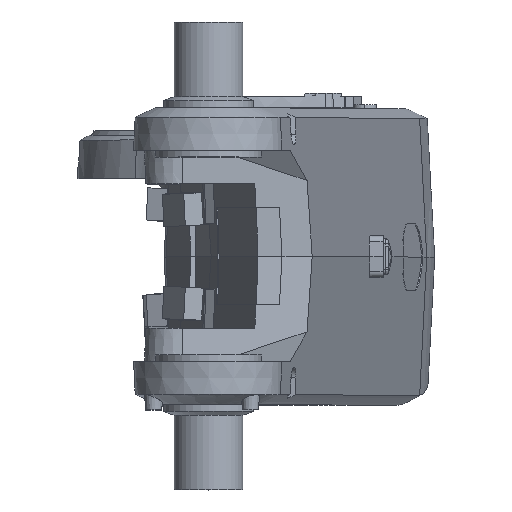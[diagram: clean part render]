
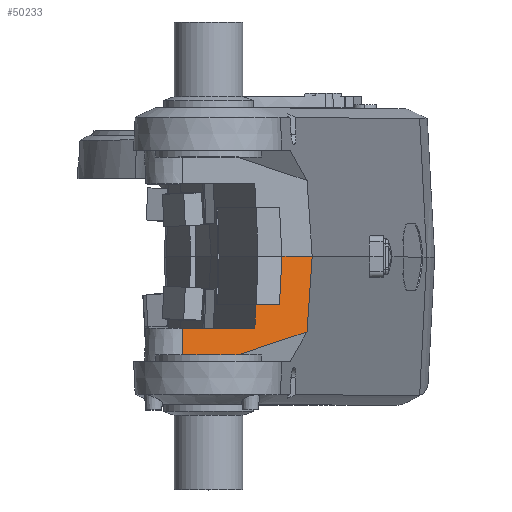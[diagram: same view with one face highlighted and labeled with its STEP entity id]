
A CAD part, top view. The second image highlights one B-rep face of the part: STEP entity #50233.
In plain terms, the highlighted planar face has unit normal (0.242, 0.052, 0.969).
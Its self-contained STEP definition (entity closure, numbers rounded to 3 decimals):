
#255 = DIRECTION ( 'NONE',  ( 0.068, 0.995, -0.071 ) ) ;
#1988 = ORIENTED_EDGE ( 'NONE', *, *, #5552, .F. ) ;
#2979 = EDGE_CURVE ( 'NONE', #41523, #30212, #33370, .T. ) ;
#3996 = VECTOR ( 'NONE', #20061, 1000. ) ;
#5552 = EDGE_CURVE ( 'NONE', #46377, #30212, #14368, .T. ) ;
#5652 = ORIENTED_EDGE ( 'NONE', *, *, #37255, .T. ) ;
#5805 = LINE ( 'NONE', #14203, #3996 ) ;
#5834 = CARTESIAN_POINT ( 'NONE',  ( 572.882, -117.351, 2426.608 ) ) ;
#6600 = VERTEX_POINT ( 'NONE', #16757 ) ;
#9781 = PLANE ( 'NONE',  #48844 ) ;
#9797 = DIRECTION ( 'NONE',  ( 0.919, 0.309, -0.246 ) ) ;
#10473 = VECTOR ( 'NONE', #56690, 1000. ) ;
#12211 = EDGE_CURVE ( 'NONE', #65435, #46377, #54359, .T. ) ;
#12564 = EDGE_CURVE ( 'NONE', #6600, #28185, #37550, .T. ) ;
#13820 = ORIENTED_EDGE ( 'NONE', *, *, #57099, .T. ) ;
#14203 = CARTESIAN_POINT ( 'NONE',  ( 660.03, -75., 2402.592 ) ) ;
#14368 = LINE ( 'NONE', #35436, #59963 ) ;
#15604 = DIRECTION ( 'NONE',  ( 0.97, 0., -0.242 ) ) ;
#15617 = CARTESIAN_POINT ( 'NONE',  ( 367.536, -186.446, 2481.539 ) ) ;
#15635 = ORIENTED_EDGE ( 'NONE', *, *, #72081, .T. ) ;
#16218 = DIRECTION ( 'NONE',  ( 0.97, 0., -0.242 ) ) ;
#16240 = DIRECTION ( 'NONE',  ( -0.031, -0.998, 0.062 ) ) ;
#16377 = CARTESIAN_POINT ( 'NONE',  ( 495.655, 7.514, 2439.119 ) ) ;
#16757 = CARTESIAN_POINT ( 'NONE',  ( 534., 0., 2429.964 ) ) ;
#16769 = CARTESIAN_POINT ( 'NONE',  ( 534.45, 8.585, 2429.388 ) ) ;
#18788 = LINE ( 'NONE', #15617, #49087 ) ;
#19919 = VECTOR ( 'NONE', #16240, 1000. ) ;
#20061 = DIRECTION ( 'NONE',  ( -0.97, 0., 0.242 ) ) ;
#25786 = FACE_OUTER_BOUND ( 'NONE', #57624, .T. ) ;
#25933 = VECTOR ( 'NONE', #255, 1000. ) ;
#26365 = VERTEX_POINT ( 'NONE', #27513 ) ;
#26955 = CARTESIAN_POINT ( 'NONE',  ( 659.079, 0., 2398.779 ) ) ;
#27513 = CARTESIAN_POINT ( 'NONE',  ( 530.069, -75., 2434.995 ) ) ;
#27551 = CARTESIAN_POINT ( 'NONE',  ( 661.158, -164., 2407.118 ) ) ;
#27711 = LINE ( 'NONE', #68811, #25933 ) ;
#28185 = VERTEX_POINT ( 'NONE', #57013 ) ;
#30212 = VERTEX_POINT ( 'NONE', #39176 ) ;
#32758 = ORIENTED_EDGE ( 'NONE', *, *, #12211, .F. ) ;
#33370 = LINE ( 'NONE', #16377, #19919 ) ;
#33816 = CARTESIAN_POINT ( 'NONE',  ( 378.397, 0., 2468.76 ) ) ;
#34023 = CARTESIAN_POINT ( 'NONE',  ( 434.244, -164., 2463.694 ) ) ;
#35436 = CARTESIAN_POINT ( 'NONE',  ( 660.499, -112., 2404.474 ) ) ;
#35597 = DIRECTION ( 'NONE',  ( 0.97, 0., -0.242 ) ) ;
#35937 = LINE ( 'NONE', #27551, #49170 ) ;
#37255 = EDGE_CURVE ( 'NONE', #65435, #47853, #35937, .T. ) ;
#37550 = LINE ( 'NONE', #58360, #50762 ) ;
#39176 = CARTESIAN_POINT ( 'NONE',  ( 491.979, -112., 2446.49 ) ) ;
#39307 = VECTOR ( 'NONE', #73373, 1000. ) ;
#40836 = EDGE_CURVE ( 'NONE', #47853, #54235, #18788, .T. ) ;
#41523 = VERTEX_POINT ( 'NONE', #66919 ) ;
#44451 = EDGE_CURVE ( 'NONE', #54235, #28185, #27711, .T. ) ;
#46377 = VERTEX_POINT ( 'NONE', #57157 ) ;
#47326 = CARTESIAN_POINT ( 'NONE',  ( 380.477, -164., 2477.1 ) ) ;
#47853 = VERTEX_POINT ( 'NONE', #34023 ) ;
#48844 = AXIS2_PLACEMENT_3D ( 'NONE', #26955, #49803, #15604 ) ;
#49087 = VECTOR ( 'NONE', #9797, 1000. ) ;
#49170 = VECTOR ( 'NONE', #16218, 1000. ) ;
#49803 = DIRECTION ( 'NONE',  ( -0.242, -0.052, -0.969 ) ) ;
#50233 = ADVANCED_FACE ( 'NONE', ( #25786 ), #9781, .F. ) ;
#50762 = VECTOR ( 'NONE', #69644, 1000. ) ;
#51370 = ORIENTED_EDGE ( 'NONE', *, *, #40836, .T. ) ;
#54027 = ORIENTED_EDGE ( 'NONE', *, *, #44451, .T. ) ;
#54235 = VERTEX_POINT ( 'NONE', #5834 ) ;
#54322 = LINE ( 'NONE', #16769, #10473 ) ;
#54359 = LINE ( 'NONE', #33816, #39307 ) ;
#55822 = ORIENTED_EDGE ( 'NONE', *, *, #12564, .F. ) ;
#56690 = DIRECTION ( 'NONE',  ( -0.052, -0.996, 0.067 ) ) ;
#57013 = CARTESIAN_POINT ( 'NONE',  ( 580.874, 0., 2418.277 ) ) ;
#57099 = EDGE_CURVE ( 'NONE', #6600, #26365, #54322, .T. ) ;
#57157 = CARTESIAN_POINT ( 'NONE',  ( 379.817, -112., 2474.456 ) ) ;
#57624 = EDGE_LOOP ( 'NONE', ( #54027, #55822, #13820, #15635, #61181, #1988, #32758, #5652, #51370 ) ) ;
#58360 = CARTESIAN_POINT ( 'NONE',  ( 659.079, 0., 2398.779 ) ) ;
#59963 = VECTOR ( 'NONE', #35597, 1000. ) ;
#61181 = ORIENTED_EDGE ( 'NONE', *, *, #2979, .T. ) ;
#65435 = VERTEX_POINT ( 'NONE', #47326 ) ;
#66919 = CARTESIAN_POINT ( 'NONE',  ( 493.117, -75., 2444.208 ) ) ;
#68811 = CARTESIAN_POINT ( 'NONE',  ( 588.494, 111.879, 2410.335 ) ) ;
#69644 = DIRECTION ( 'NONE',  ( 0.97, 0., -0.242 ) ) ;
#72081 = EDGE_CURVE ( 'NONE', #26365, #41523, #5805, .T. ) ;
#73373 = DIRECTION ( 'NONE',  ( -0.013, 0.999, -0.051 ) ) ;
